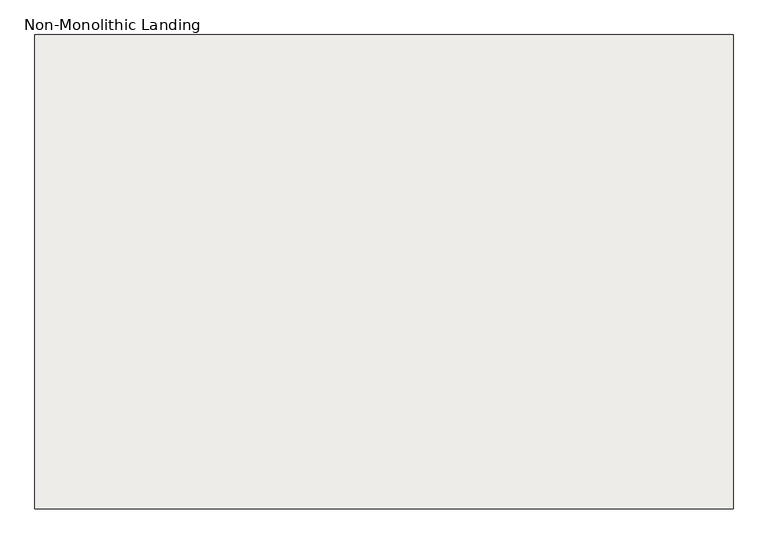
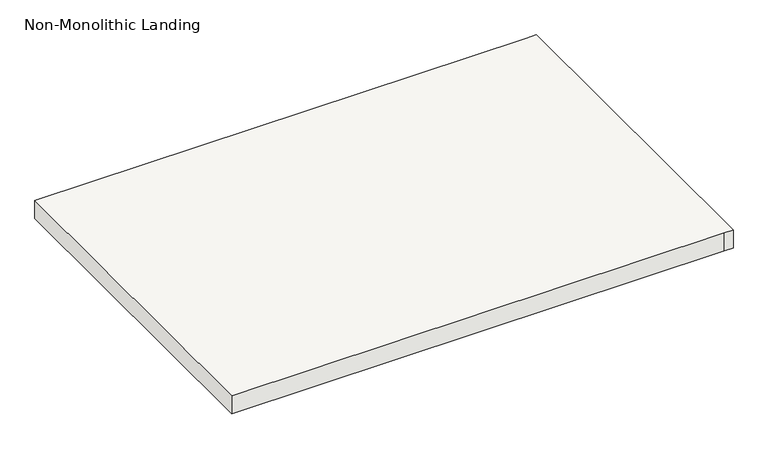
"""IFC4 building model written with IfcOpenShell, lengths in millimetres: slab geometry, Non-Monolithic Landing."""

from ifc_helpers import new_model, si_unit, frame, origin, place, context, project, spatial, polyline, outline, extrude, source, transform, mapped, element, save


def non_monolithic_landing_047bd246(model_context):
    return source(origin(), model_context, "Body", "SweptSolid", [
        extrude(outline(polyline([(-20439.0165976, 15552.9127053), (-19118.2165976, 15552.9127053), (-19092.8165976, 15552.9127053), (-19092.8165976, 14638.5127053), (-19118.2165976, 14638.5127053), (-20439.0165976, 14638.5127053), (-20439.0165976, 15552.9127053)])), frame((0.0, 0.0, 2126.3428571), z_axis=(0.0, 0.0, 1.0), x_axis=(1.0, 0.0, 0.0)), (0.0, 0.0, 1.0), 50.8),
    ])


if __name__ == "__main__":
    model = new_model("IFC4")
    model_context = context("Model", 3, world=origin())
    ifc_project = project(units=[si_unit("LENGTHUNIT", "METRE", prefix="MILLI")], contexts=[model_context])
    site = spatial("IfcSite", under=ifc_project)
    building = spatial("IfcBuilding", under=site)
    placement = place(None, origin())
    non_monolithic_landing_shape = non_monolithic_landing_047bd246(model_context)
    element("IfcSlab", 1, ObjectType="Non-Monolithic Landing", at=placement, inside=building, context=model_context, shape_type="MappedRepresentation", body=[
        mapped(non_monolithic_landing_shape, transform((0.0, 0.0, 0.0), x_axis=(1.0, 0.0, 0.0), y_axis=(0.0, 1.0, 0.0), z_axis=(0.0, 0.0, 1.0))),
    ])
    save(model, "model.ifc")
